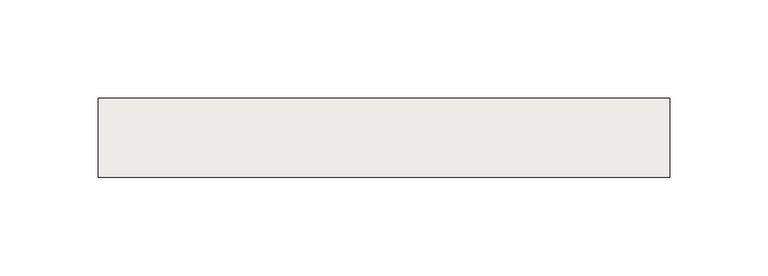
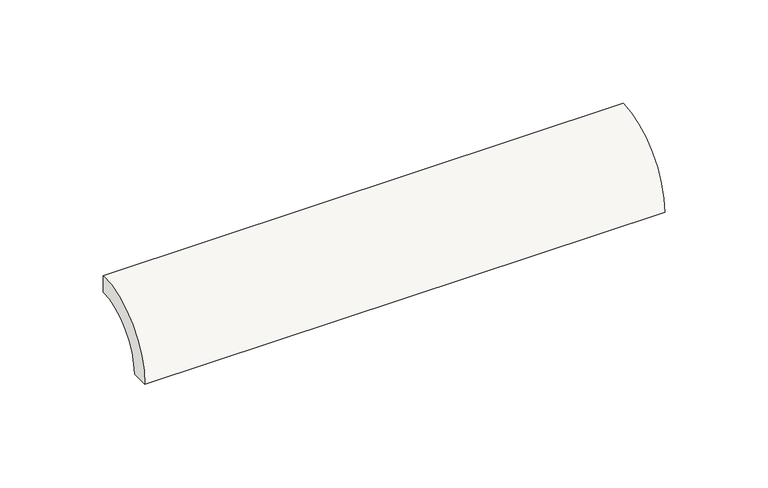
"""IFC4 building model written with IfcOpenShell, lengths in millimetres: slab geometry, ROSA GRES_183 : Pieza 183_Tao_Beige_Liso."""

import ifcopenshell
import ifcopenshell.guid

model = None  # the IFC model being written
_history = None  # IfcOwnerHistory: only IFC2X3 demands one
_inside = {}  # id of a spatial element -> (the spatial element, [elements in it])
_under = {}  # id of a project, library or spatial element -> (it, [spatial elements below it])
_declared = {}  # id of a project -> (the project, [libraries it declares])
_typed = {}  # id of a type object -> (the type object, [elements of that type])
_made_of = {}  # id of a material, layer set ... -> (it, [elements and type objects made of it])


def new_model(schema):
    """Start an empty IFC model of exactly this schema.

    Asked for "IFC4X3", IfcOpenShell would pick the latest addendum, in which some entities
    have other attributes; the version numbers below select the first issue.
    IFC2X3 requires an IfcOwnerHistory on every rooted entity: one is made here for all.
    """
    global model, _history
    if schema == "IFC4X3":
        model = ifcopenshell.file(schema_version=(4, 3, 0, 0))
    else:
        model = ifcopenshell.file(schema=schema)
    _inside.clear()
    _under.clear()
    _declared.clear()
    _typed.clear()
    _made_of.clear()
    _history = None
    if model.schema == "IFC2X3":
        org = make("IfcOrganization", Name="unknown")
        user = make(
            "IfcPersonAndOrganization",
            ThePerson=make("IfcPerson", FamilyName="unknown"),
            TheOrganization=org,
        )
        app = make(
            "IfcApplication",
            ApplicationDeveloper=org,
            Version="unknown",
            ApplicationFullName="unknown",
            ApplicationIdentifier="unknown",
        )
        _history = make(
            "IfcOwnerHistory",
            OwningUser=user,
            OwningApplication=app,
            ChangeAction="ADDED",
            CreationDate=0,
        )
    return model


def make(cls, **values):
    """One entity of the class cls with the attributes given. An attribute that is None is left unset."""
    return model.create_entity(
        cls, **{name: value for name, value in values.items() if value is not None}
    )


def rooted(cls, **values):
    """An entity with a GlobalId (a new one), such as an element, a storey or a relation."""
    return make(cls, GlobalId=ifcopenshell.guid.new(), OwnerHistory=_history, **values)


def si_unit(unit_type, name, prefix=None):
    """IfcSIUnit, for example si_unit("LENGTHUNIT", "METRE", prefix="MILLI")."""
    return make("IfcSIUnit", UnitType=unit_type, Prefix=prefix, Name=name)


def assignment(units):
    """IfcUnitAssignment: the units of a project."""
    return None if units is None else make("IfcUnitAssignment", Units=units)


def point(xyz):
    """IfcCartesianPoint."""
    return None if xyz is None else make("IfcCartesianPoint", Coordinates=xyz)


def direction(xyz):
    """IfcDirection."""
    return None if xyz is None else make("IfcDirection", DirectionRatios=xyz)


def frame(location, z_axis=None, x_axis=None):
    """IfcAxis2Placement3D, a coordinate frame: its origin and axes. An axis left out is left unset."""
    return make(
        "IfcAxis2Placement3D",
        Location=point(location),
        Axis=direction(z_axis),
        RefDirection=direction(x_axis),
    )


def frame_2d(location, x_axis=None):
    """IfcAxis2Placement2D, a coordinate frame in the plane: its origin and x axis."""
    return make(
        "IfcAxis2Placement2D", Location=point(location), RefDirection=direction(x_axis)
    )


def origin():
    """The frame at (0, 0, 0) with its axes left unset."""
    return frame((0.0, 0.0, 0.0))


def origin_2d():
    """The frame at (0, 0) in the plane with its x axis left unset."""
    return frame_2d((0.0, 0.0))


def place(relative_to, where):
    """IfcLocalPlacement: puts the frame where relative to a parent placement (None: the world)."""
    return make(
        "IfcLocalPlacement", PlacementRelTo=relative_to, RelativePlacement=where
    )


def context(
    kind, dimensions, precision=None, world=None, true_north=None, identifier=None
):
    """IfcGeometricRepresentationContext, for example the 3D "Model" context."""
    return make(
        "IfcGeometricRepresentationContext",
        ContextIdentifier=identifier,
        ContextType=kind,
        CoordinateSpaceDimension=dimensions,
        Precision=precision,
        WorldCoordinateSystem=world,
        TrueNorth=true_north,
    )


def project(units=None, contexts=None):
    """IfcProject with its units and contexts."""
    return rooted(
        "IfcProject",
        Name="project",
        RepresentationContexts=contexts,
        UnitsInContext=assignment(units),
    )


def spatial(cls, under=None, at=None, **own):
    """A site, building, storey or space (cls), placed at a placement, below another one or the project."""
    s = rooted(cls, ObjectPlacement=at, **own)
    if under is not None:
        _under.setdefault(under.id(), (under, []))[1].append(s)
    return s


def polyline(points):
    """IfcPolyline through the points."""
    return make("IfcPolyline", Points=[point(p) for p in points])


def circle_curve(where, radius):
    """IfcCircle in the frame where."""
    return make("IfcCircle", Position=where, Radius=radius)


def trimmed(basis, trim1, trim2, sense, master):
    """IfcTrimmedCurve: the piece of a basis curve between two trims."""
    return make(
        "IfcTrimmedCurve",
        BasisCurve=basis,
        Trim1=trim1,
        Trim2=trim2,
        SenseAgreement=sense,
        MasterRepresentation=master,
    )


def segment(curve, same_sense, transition):
    """IfcCompositeCurveSegment."""
    return make(
        "IfcCompositeCurveSegment",
        Transition=transition,
        SameSense=same_sense,
        ParentCurve=curve,
    )


def composite_curve(segments, self_intersect=None):
    """IfcCompositeCurve: segments joined end to end."""
    return make("IfcCompositeCurve", Segments=segments, SelfIntersect=self_intersect)


def outline(outer, holes=None, kind="AREA"):
    """IfcArbitraryClosedProfileDef: a profile drawn as a closed curve; with holes, ...WithVoids."""
    if holes is None:
        return make("IfcArbitraryClosedProfileDef", ProfileType=kind, OuterCurve=outer)
    return make(
        "IfcArbitraryProfileDefWithVoids",
        ProfileType=kind,
        OuterCurve=outer,
        InnerCurves=holes,
    )


def extrude(swept, where, along, depth):
    """IfcExtrudedAreaSolid: the profile swept, set in the frame where, extruded along a direction by depth."""
    return make(
        "IfcExtrudedAreaSolid",
        SweptArea=swept,
        Position=where,
        ExtrudedDirection=direction(along),
        Depth=depth,
    )


def shape(context_of_items, identifier, shape_type, items):
    """IfcShapeRepresentation: the items that make up one representation, for example the "Body"."""
    return make(
        "IfcShapeRepresentation",
        ContextOfItems=context_of_items,
        RepresentationIdentifier=identifier,
        RepresentationType=shape_type,
        Items=items,
    )


def source(mapping_origin, context_of_items, identifier, shape_type, items):
    """IfcRepresentationMap: a shape defined once, which mapped items show again and again."""
    return make(
        "IfcRepresentationMap",
        MappingOrigin=mapping_origin,
        MappedRepresentation=shape(context_of_items, identifier, shape_type, items),
    )


def transform(
    local_origin,
    x_axis=None,
    y_axis=None,
    z_axis=None,
    scale=None,
    scale2=None,
    scale3=None,
    uniform=True,
):
    """IfcCartesianTransformationOperator3D, or its non-uniform kind. x_axis, y_axis, z_axis: its Axis1, 2, 3."""
    if uniform:
        return make(
            "IfcCartesianTransformationOperator3D",
            Axis1=direction(x_axis),
            Axis2=direction(y_axis),
            LocalOrigin=point(local_origin),
            Scale=scale,
            Axis3=direction(z_axis),
        )
    return make(
        "IfcCartesianTransformationOperator3DnonUniform",
        Axis1=direction(x_axis),
        Axis2=direction(y_axis),
        LocalOrigin=point(local_origin),
        Scale=scale,
        Axis3=direction(z_axis),
        Scale2=scale2,
        Scale3=scale3,
    )


def mapped(mapping_source, mapping_target):
    """IfcMappedItem: shows the shape of a source again, moved by a transform."""
    return make(
        "IfcMappedItem", MappingSource=mapping_source, MappingTarget=mapping_target
    )


def made_of(thing, what):
    """Note that an element or type object is made of a material, layer set ...; save() writes the relation."""
    if what is not None:
        _made_of.setdefault(what.id(), (what, []))[1].append(thing)
    return thing


def element(
    cls,
    number,
    at=None,
    inside=None,
    cuts=None,
    type_object=None,
    material=None,
    context=None,
    identifier="Body",
    shape_type=None,
    held_by="IfcProductDefinitionShape",
    body=None,
    shapes=None,
    **own,
):
    """One element of the class cls, such as IfcWall. Its Tag is "e" and its number.

    at: its placement. inside: the storey or other place that contains it. cuts: it is an
    opening in that element (IfcRelVoidsElement). A single representation is given by context,
    identifier, shape_type and body (its items); several are given by shapes. held_by: the class
    of the entity that holds the representations. save() writes the other relations.
    """
    e = rooted(cls, Tag="e%d" % number, ObjectPlacement=at, **own)
    if body is not None:
        shapes = [shape(context, identifier, shape_type, body)]
    if shapes is not None:
        e.Representation = make(held_by, Representations=shapes)
    if inside is not None:
        _inside.setdefault(inside.id(), (inside, []))[1].append(e)
    if cuts is not None:
        rooted(
            "IfcRelVoidsElement", RelatingBuildingElement=cuts, RelatedOpeningElement=e
        )
    if type_object is not None:
        _typed.setdefault(type_object.id(), (type_object, []))[1].append(e)
    return made_of(e, material)


def aggregate(whole, parts):
    """IfcRelAggregates: a whole, such as a stair, and the parts it consists of."""
    return rooted("IfcRelAggregates", RelatingObject=whole, RelatedObjects=parts)


def save(model, path):
    """Write the relations noted so far, then the file.

    IfcRelAggregates (storeys below a building ...), IfcRelContainedInSpatialStructure (elements
    in a storey), IfcRelDefinesByType, IfcRelAssociatesMaterial and IfcRelDeclares: one each for
    every whole, place, type object, material and project.
    """
    for whole, parts in _under.values():
        aggregate(whole, parts)
    for where, things in _inside.values():
        rooted(
            "IfcRelContainedInSpatialStructure",
            RelatedElements=things,
            RelatingStructure=where,
        )
    for kind, things in _typed.values():
        rooted("IfcRelDefinesByType", RelatedObjects=things, RelatingType=kind)
    for what, things in _made_of.values():
        rooted("IfcRelAssociatesMaterial", RelatedObjects=things, RelatingMaterial=what)
    for by, libraries in _declared.values():
        rooted("IfcRelDeclares", RelatingContext=by, RelatedDefinitions=libraries)
    model.write(path)


def slab_00de984e(model_context):
    return source(origin(), model_context, "Body", "SweptSolid", [
        extrude(outline(composite_curve([segment(polyline([(0.0, 40.0), (0.0, 30.0265886)]), True, "CONTINUOUS"), segment(trimmed(circle_curve(frame_2d((-0.0044453, 0.0044453)), 30.0221435), [point((0.0, 30.0265886))], [point((-30.0265886, 0.0))], True, "CARTESIAN"), True, "CONTINUOUS"), segment(polyline([(-30.0265886, 0.0), (-40.0, 0.0)]), True, "CONTINUOUS"), segment(trimmed(circle_curve(origin_2d(), 40.0), [point((-40.0, 0.0))], [point((0.0, 40.0))], False, "CARTESIAN"), True, "CONTINUOUS")], self_intersect=False)), frame((0.0, 0.0, 0.0), z_axis=(1.0, 0.0, 0.0), x_axis=(0.0, 1.0, 0.0)), (0.0, 0.0, 1.0), 290.0),
    ])


if __name__ == "__main__":
    model = new_model("IFC4")
    model_context = context("Model", 3, world=origin())
    ifc_project = project(units=[si_unit("LENGTHUNIT", "METRE", prefix="MILLI")], contexts=[model_context])
    site = spatial("IfcSite", under=ifc_project)
    building = spatial("IfcBuilding", under=site)
    placement = place(None, origin())
    slab_shape = slab_00de984e(model_context)
    element("IfcSlab", 1, ObjectType="ROSA GRES_183 : Pieza 183_Tao_Beige_Liso", at=placement, inside=building, context=model_context, shape_type="MappedRepresentation", body=[
        mapped(slab_shape, transform((0.0, 0.0, 0.0), x_axis=(1.0, 0.0, 0.0), y_axis=(0.0, 1.0, 0.0), z_axis=(0.0, 0.0, 1.0))),
    ])
    save(model, "model.ifc")
